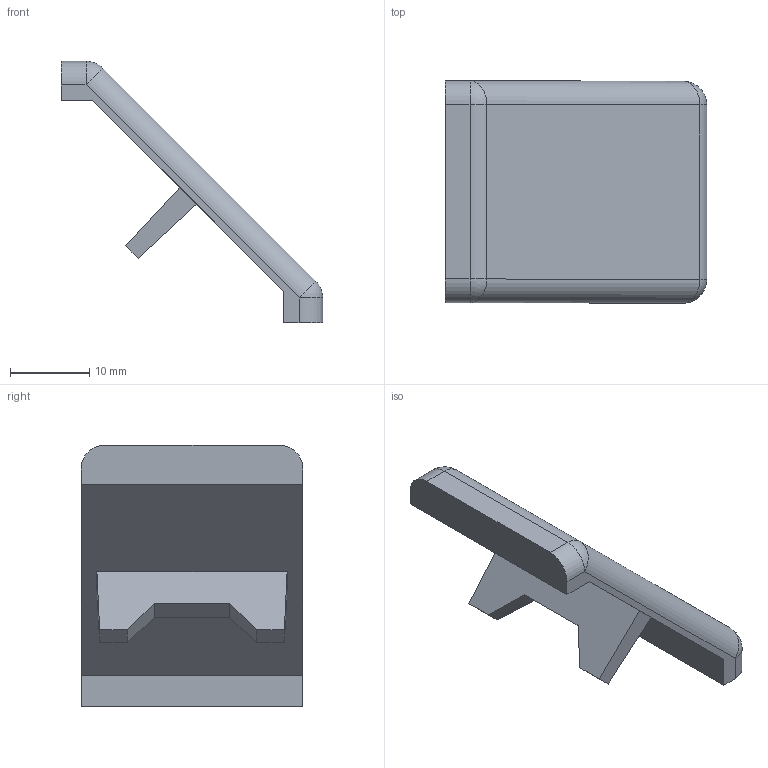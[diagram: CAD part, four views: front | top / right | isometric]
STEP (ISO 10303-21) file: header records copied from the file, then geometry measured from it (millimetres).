
FILE_DESCRIPTION((''),'2;1');
FILE_NAME('C:\Andys Backup Data\WEBSITE\DREAMWEAVER\MiniTec\Products\30 SERIES PROFILES\CAD\STEP\22.1026_1 COVER ANGLE 30.stp','2013-11-15T11:41:02',('Admin'),(''),'Autodesk Inventor 2012','Autodesk Inventor 2012','');
FILE_SCHEMA(('AUTOMOTIVE_DESIGN { 1 0 10303 214 1 1 1 1 }'));
Length unit declared in the file: millimetre
Products named in the file (1): 22.1026/1 COVER ANGLE 30
Bounding box: 33 x 28 x 33 mm (x, y, z)
Volume: 5403.4 mm3; surface area: 3460 mm2
Topology: 1 solids, 1 shells, 31 faces, 72 edges, 44 vertices
Faces by surface type: plane 19, cylinder 8, sphere 4
Entity records: 928 total; most frequent: DIRECTION 152, CARTESIAN_POINT 148, ORIENTED_EDGE 144, EDGE_CURVE 72, VECTOR 56, LINE 56, AXIS2_PLACEMENT_3D 48, VERTEX_POINT 44
